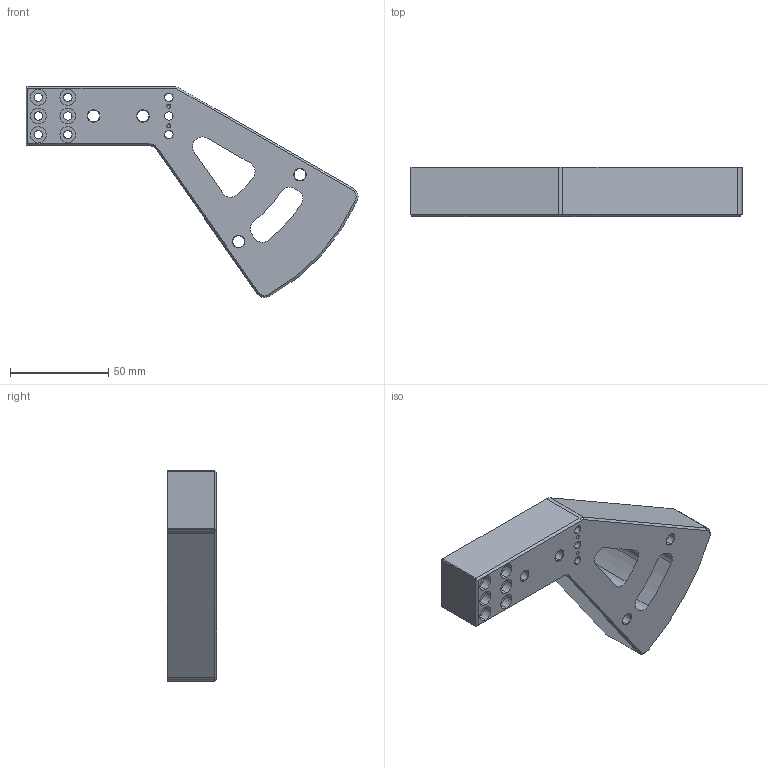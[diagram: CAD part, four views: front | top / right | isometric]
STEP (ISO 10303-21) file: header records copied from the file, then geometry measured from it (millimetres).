
FILE_DESCRIPTION (( 'STEP AP214' ), '1' );
FILE_NAME ('SOLS-101-L (CATALOG MODEL).STEP', '2026-08-04T21:07:32', ( '' ), ( '' ), 'SwSTEP 2.0', 'SolidWorks 2025', '' );
FILE_SCHEMA (( 'AUTOMOTIVE_DESIGN' ));
Length unit declared in the file: inch
Products named in the file (1): SOLS-101-L (CATALOG MODEL)
Bounding box: 168.72 x 25 x 107.24 mm (x, y, z)
Volume: 160318.6 mm3; surface area: 35118 mm2
Topology: 1 solids, 1 shells, 230 faces, 573 edges, 324 vertices
Faces by surface type: cylinder 124, cone 81, plane 25
Entity records: 6519 total; most frequent: DIRECTION 1238, CARTESIAN_POINT 1080, ORIENTED_EDGE 1026, EDGE_CURVE 513, AXIS2_PLACEMENT_3D 498, VERTEX_POINT 324, EDGE_LOOP 299, CIRCLE 267
